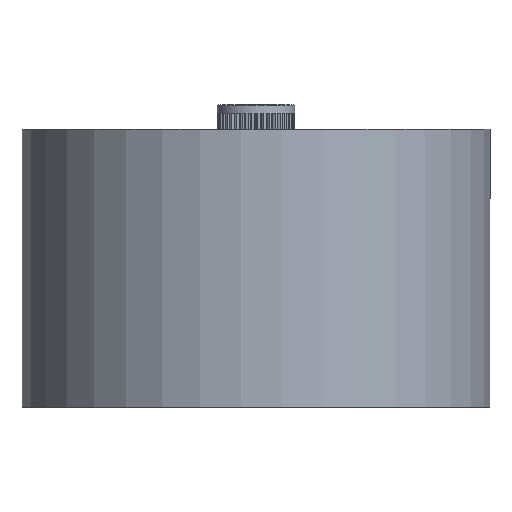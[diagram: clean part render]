
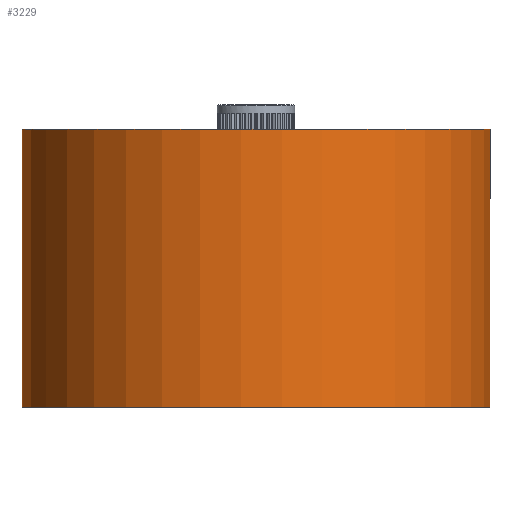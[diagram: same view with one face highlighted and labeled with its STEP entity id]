
A CAD part, front view. The second image highlights one B-rep face of the part: STEP entity #3229.
In plain terms, the highlighted cylindrical face has radius 24 mm (diameter 48 mm), a full revolution.
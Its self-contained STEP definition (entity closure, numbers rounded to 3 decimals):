
#2368=CARTESIAN_POINT('',(13.325,19.961,21.856));
#2369=VERTEX_POINT('',#2368);
#2370=CARTESIAN_POINT('',(0.,0.,21.856));
#2371=DIRECTION('',(0.0,0.0,-1.0));
#2372=DIRECTION('',(-0.555,-0.832,0.0));
#2373=AXIS2_PLACEMENT_3D('',#2370,#2371,#2372);
#2374=CIRCLE('',#2373,24.);
#2375=EDGE_CURVE('',#2369,#2369,#2374,.F.);
#3210=CARTESIAN_POINT('',(0.,0.,-6.604));
#3211=DIRECTION('',(0.0,0.0,1.0));
#3212=DIRECTION('',(-0.555,-0.832,0.0));
#3213=AXIS2_PLACEMENT_3D('',#3210,#3211,#3212);
#3214=CYLINDRICAL_SURFACE('',#3213,24.);
#3215=ORIENTED_EDGE('',*,*,#2375,.F.);
#3216=EDGE_LOOP('',(#3215));
#3217=FACE_OUTER_BOUND('',#3216,.T.);
#3218=CARTESIAN_POINT('',(13.325,19.961,-6.604));
#3219=VERTEX_POINT('',#3218);
#3220=CARTESIAN_POINT('',(0.,0.,-6.604));
#3221=DIRECTION('',(0.0,0.0,1.0));
#3222=DIRECTION('',(-0.555,-0.832,0.0));
#3223=AXIS2_PLACEMENT_3D('',#3220,#3221,#3222);
#3224=CIRCLE('',#3223,24.);
#3225=EDGE_CURVE('',#3219,#3219,#3224,.F.);
#3226=ORIENTED_EDGE('',*,*,#3225,.F.);
#3227=EDGE_LOOP('',(#3226));
#3228=FACE_BOUND('',#3227,.T.);
#3229=ADVANCED_FACE('',(#3217,#3228),#3214,.T.);
